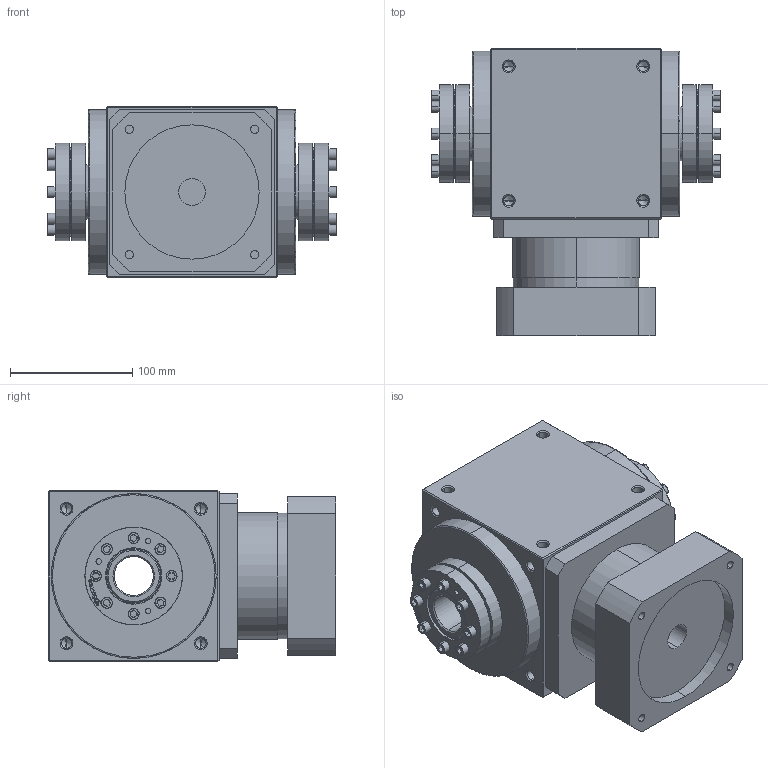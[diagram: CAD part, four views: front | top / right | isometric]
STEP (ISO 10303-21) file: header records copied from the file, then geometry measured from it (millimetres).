
FILE_DESCRIPTION (( 'STEP AP214' ), '1' );
FILE_NAME ('AT140-FC-L1-2KW.STEP', '2020-11-11T02:20:15', ( '微软用户' ), ( '微软中国' ), 'SwSTEP 2.0', 'SolidWorks 2014', '' );
FILE_SCHEMA (( 'AUTOMOTIVE_DESIGN' ));
Length unit declared in the file: millimetre
Products named in the file (6): 83_44x80_1; AT140-FC-L1-2KW_1; AT140-FC-L1-2KW
Assembly tree (3 placements, depth 2):
  83_44x80_1
  AT140-FC-L1-2KW_1
  AT140-FC-L1-2KW
    AT140-FC-L1-2KW_1
    83_44x80_1  x2
  83_44x80_1
Bounding box: 237.2 x 235.5 x 140 mm (x, y, z)
Volume: 4371736.6 mm3; surface area: 308206.9 mm2
Topology: 25 solids, 25 shells, 1214 faces, 2858 edges, 1716 vertices
Faces by surface type: cylinder 528, plane 314, cone 264, torus 64, bspline 44
Entity records: 22139 total; most frequent: CARTESIAN_POINT 5231, DIRECTION 3572, ORIENTED_EDGE 3452, EDGE_CURVE 1726, AXIS2_PLACEMENT_3D 1374, VERTEX_POINT 1052, EDGE_LOOP 846, LINE 824
